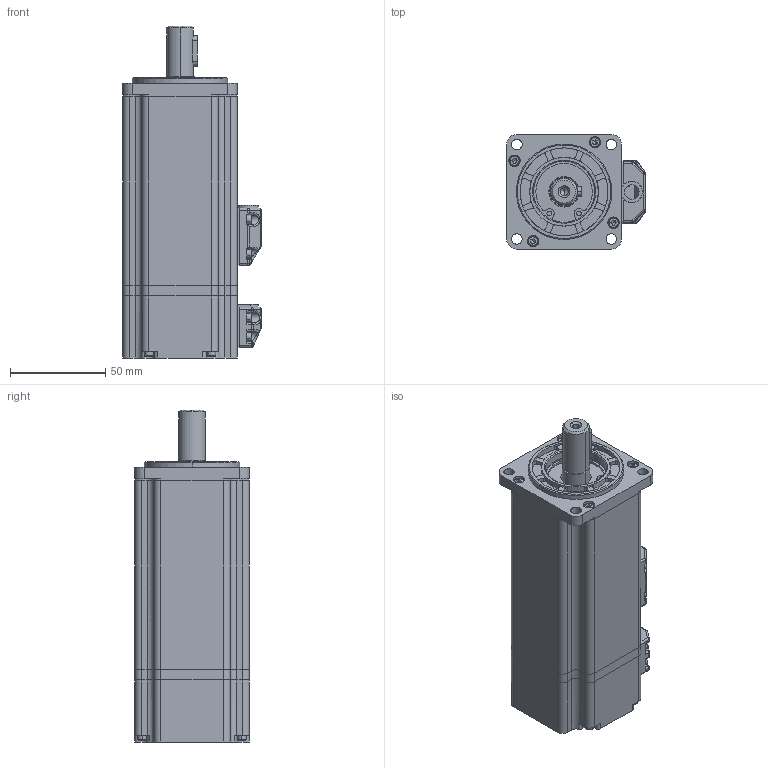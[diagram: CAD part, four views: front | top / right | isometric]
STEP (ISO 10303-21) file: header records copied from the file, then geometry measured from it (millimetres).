
FILE_DESCRIPTION (( 'STEP AP203' ), '1' );
FILE_NAME ('淕儂蚾饜.STEP', '2021-03-12T01:41:14', ( 'admin' ), ( '' ), 'SwSTEP 2.0', 'SolidWorks 2016', '' );
FILE_SCHEMA (( 'CONFIG_CONTROL_DESIGN' ));
Length unit declared in the file: millimetre
Products named in the file (1): 淕儂蚾饜
Bounding box: 72.5 x 60 x 174 mm (x, y, z)
Volume: 184758.7 mm3; surface area: 117724.6 mm2
Topology: 31 solids, 31 shells, 1626 faces, 4341 edges, 2718 vertices
Faces by surface type: cylinder 686, plane 602, cone 150, torus 94, sphere 70, bspline 24
Entity records: 53717 total; most frequent: CARTESIAN_POINT 13222, DIRECTION 8832, ORIENTED_EDGE 8322, EDGE_CURVE 4161, AXIS2_PLACEMENT_3D 3444, VERTEX_POINT 2654, LINE 1944, VECTOR 1944
